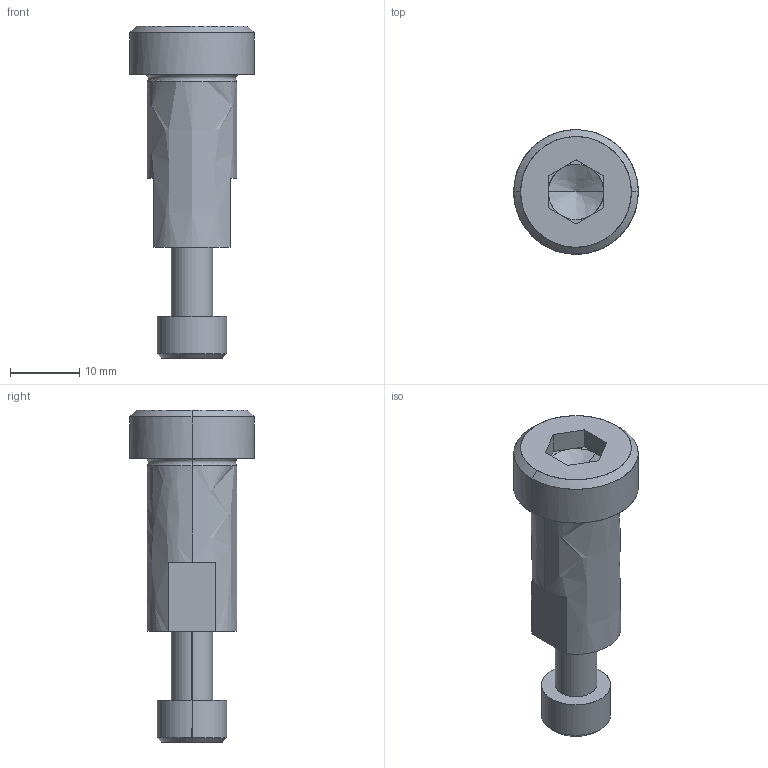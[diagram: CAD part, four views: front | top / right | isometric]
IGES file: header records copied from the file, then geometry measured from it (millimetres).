
Global section: file name: E:\UnigraphicsGraphicData\MISUMI_PRESS-PARTS\IGES\3d_sbt13-25_05061_r00.igs; native system: NX V5.0; preprocessor: UGS NX IGES V5.0; author: MISUMI; date: 20110105.162434; units: millimetre
Bounding box: 18 x 18 x 48 mm (x, y, z)
Surface area: 3153.7 mm2 (no closed solid volume)
Topology: 0 solids, 0 shells, 56 faces, 310 edges, 306 vertices
Faces by surface type: bspline 56
